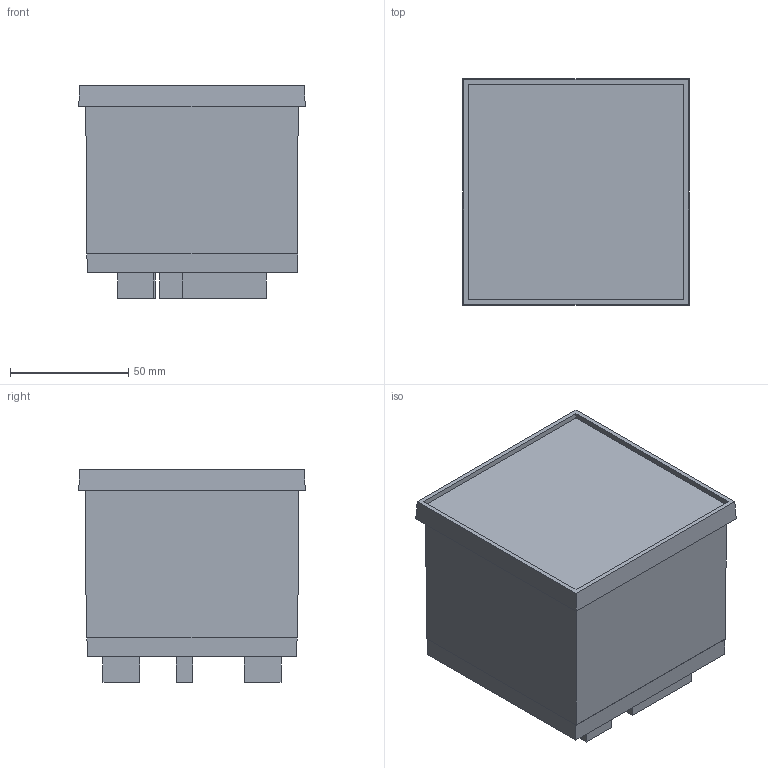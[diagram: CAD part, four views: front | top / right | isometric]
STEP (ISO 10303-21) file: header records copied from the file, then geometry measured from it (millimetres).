
FILE_DESCRIPTION (( 'STEP AP203' ), '1' );
FILE_NAME ('M1968 EPM-07-96 BARGE-7009.STEP', '2023-04-27T08:54:47', ( '' ), ( '' ), 'SwSTEP 2.0', 'SolidWorks 2021', '' );
FILE_SCHEMA (( 'CONFIG_CONTROL_DESIGN' ));
Length unit declared in the file: millimetre
Products named in the file (1): M1968 EPM-07-96 BARGE-7009
Bounding box: 96 x 96 x 90.1 mm (x, y, z)
Volume: 645386.7 mm3; surface area: 56421.2 mm2
Topology: 1 solids, 9 shells, 93 faces, 197 edges, 130 vertices
Faces by surface type: plane 93
Entity records: 2500 total; most frequent: CARTESIAN_POINT 421, ORIENTED_EDGE 394, DIRECTION 385, LINE 197, EDGE_CURVE 197, VECTOR 197, VERTEX_POINT 130, EDGE_LOOP 101
